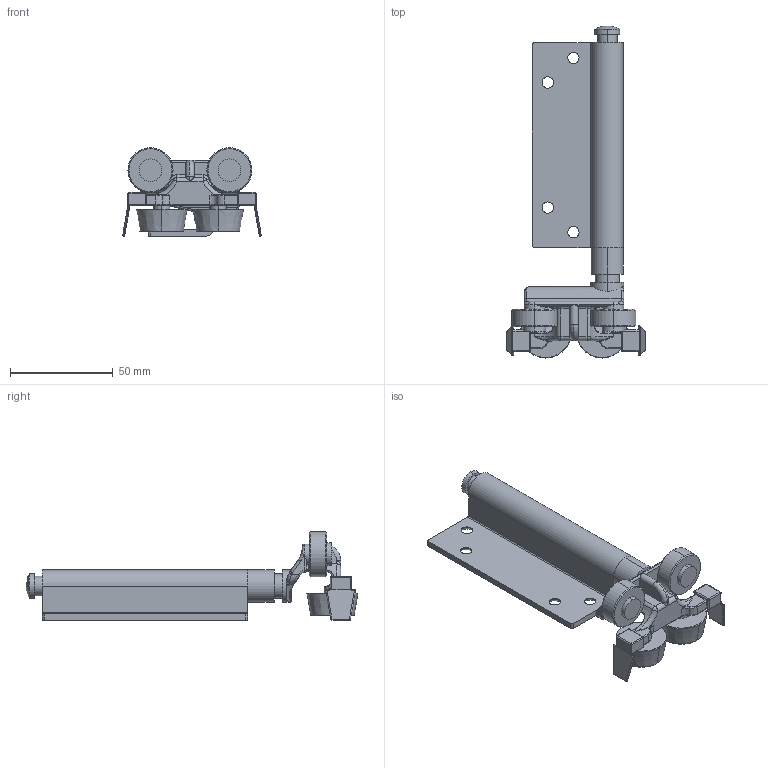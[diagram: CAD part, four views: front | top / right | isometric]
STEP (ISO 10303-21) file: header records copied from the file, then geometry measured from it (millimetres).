
FILE_DESCRIPTION (( 'STEP AP214' ), '1' );
FILE_NAME ('F3 End Carrier Right - Open 05Jun2024.STEP', '2024-07-05T04:10:00', ( '' ), ( '' ), 'SwSTEP 2.0', 'SolidWorks 2023', '' );
FILE_SCHEMA (( 'AUTOMOTIVE_DESIGN' ));
Length unit declared in the file: millimetre
Products named in the file (3): Right carrier; F3 End Carrier Right - Open 05Jun2024; Offset Flap
Assembly tree (2 placements, depth 2):
  F3 End Carrier Right - Open 05Jun2024
    Right carrier
    Offset Flap
Bounding box: 67.6 x 161.88 x 43.2 mm (x, y, z)
Volume: 61142.8 mm3; surface area: 32811 mm2
Topology: 2 solids, 2 shells, 325 faces, 787 edges, 447 vertices
Faces by surface type: cylinder 133, plane 61, bspline 36, torus 35, sphere 32, cone 28
Entity records: 10215 total; most frequent: CARTESIAN_POINT 2879, DIRECTION 1609, ORIENTED_EDGE 1500, EDGE_CURVE 750, AXIS2_PLACEMENT_3D 667, VERTEX_POINT 439, CIRCLE 373, EDGE_LOOP 345
